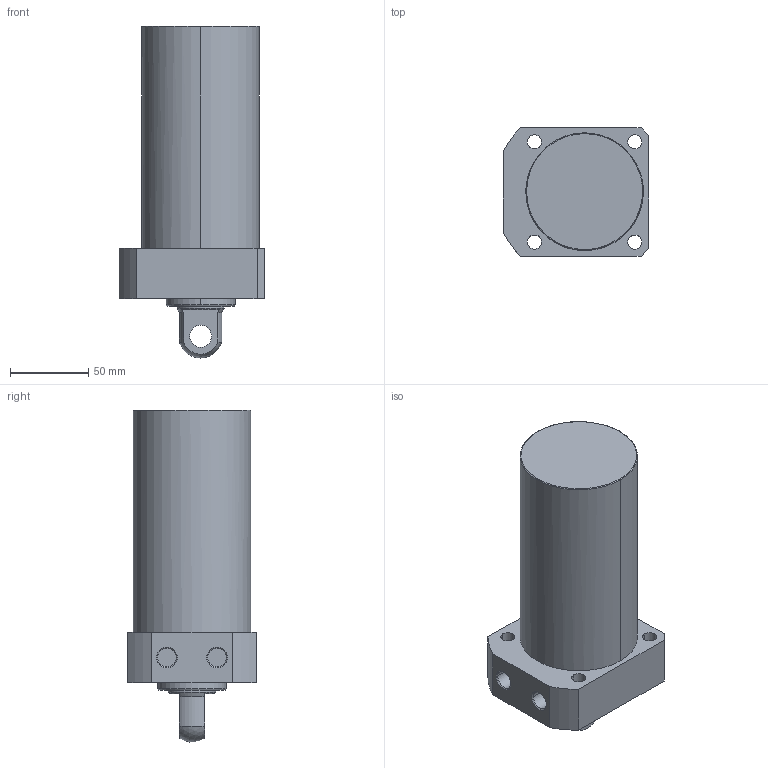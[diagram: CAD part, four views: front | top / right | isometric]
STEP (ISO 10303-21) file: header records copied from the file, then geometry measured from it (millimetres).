
FILE_DESCRIPTION((' '),'2;1');
FILE_NAME( 'TLLR-075CP-105.STEP.stp', '2025-10-24T16:35:15', (' '), ('--- Datakit www.datakit.com---'), ' Datakit CrossCadWare V2024.1 Dec 21 2023', 'Mastercam 2025', ' ');
FILE_SCHEMA(('AUTOMOTIVE_DESIGN { 1 0 10303 214 1 1 1 1 }'));
Length unit declared in the file: millimetre
Products named in the file (1): TLLR-075CP-105
Bounding box: 93 x 82 x 211.9 mm (x, y, z)
Volume: 870786.9 mm3; surface area: 66696.5 mm2
Topology: 1 solids, 1 shells, 57 faces, 164 edges, 116 vertices
Faces by surface type: cylinder 28, plane 18, cone 8, torus 2, sphere 1
Entity records: 2006 total; most frequent: DIRECTION 378, CARTESIAN_POINT 350, ORIENTED_EDGE 328, EDGE_CURVE 164, AXIS2_PLACEMENT_3D 160, VERTEX_POINT 116, CIRCLE 102, EDGE_LOOP 74
